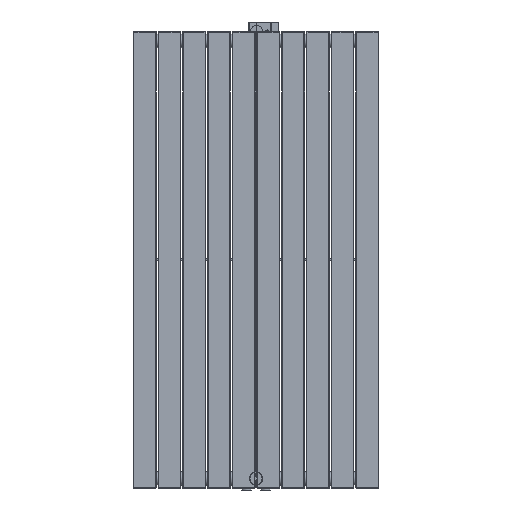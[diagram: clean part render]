
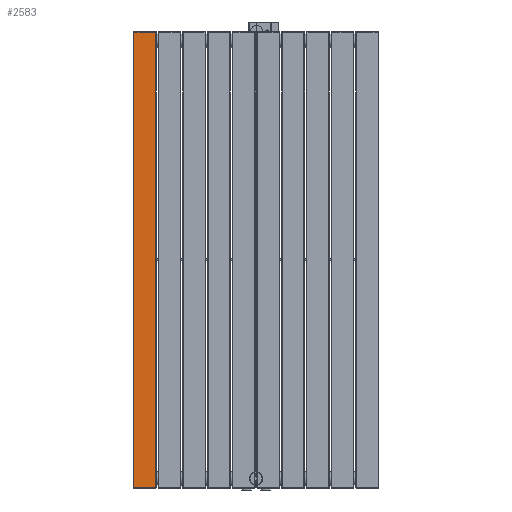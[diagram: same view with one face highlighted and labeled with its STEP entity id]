
A CAD part, front view. The second image highlights one B-rep face of the part: STEP entity #2583.
In plain terms, the highlighted planar face has unit normal (0, -1, 0) as drawn and (0, 1, 0) by its records, which use the part's own axes.
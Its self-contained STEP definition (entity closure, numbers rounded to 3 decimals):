
#2583 = ADVANCED_FACE( '', ( #5370 ), #5371, .F. );
#5370 = FACE_OUTER_BOUND( '', #8977, .T. );
#5371 = PLANE( '', #8978 );
#8977 = EDGE_LOOP( '', ( #16214, #16215, #16216, #16217 ) );
#8978 = AXIS2_PLACEMENT_3D( '', #16218, #16219, #16220 );
#16214 = ORIENTED_EDGE( '', *, *, #19776, .T. );
#16215 = ORIENTED_EDGE( '', *, *, #20799, .T. );
#16216 = ORIENTED_EDGE( '', *, *, #18758, .T. );
#16217 = ORIENTED_EDGE( '', *, *, #19513, .T. );
#16218 = CARTESIAN_POINT( '', ( 60., 10., 1200. ) );
#16219 = DIRECTION( '', ( 0., -1., 0. ) );
#16220 = DIRECTION( '', ( 0., 0., -1. ) );
#18758 = EDGE_CURVE( '', #21806, #21807, #21808, .T. );
#19513 = EDGE_CURVE( '', #21807, #23048, #23051, .T. );
#19776 = EDGE_CURVE( '', #23048, #23438, #23440, .F. );
#20799 = EDGE_CURVE( '', #23438, #21806, #24781, .F. );
#21806 = VERTEX_POINT( '', #26737 );
#21807 = VERTEX_POINT( '', #26738 );
#21808 = LINE( '', #26739, #26740 );
#23048 = VERTEX_POINT( '', #30445 );
#23051 = LINE( '', #30448, #30449 );
#23438 = VERTEX_POINT( '', #31169 );
#23440 = LINE( '', #31171, #31172 );
#24781 = LINE( '', #36188, #36189 );
#26737 = CARTESIAN_POINT( '', ( 59., 10., 1199. ) );
#26738 = CARTESIAN_POINT( '', ( 59., 10., 1. ) );
#26739 = CARTESIAN_POINT( '', ( 59., 10., 1200. ) );
#26740 = VECTOR( '', #37587, 1000. );
#30445 = CARTESIAN_POINT( '', ( 1., 10., 1. ) );
#30448 = CARTESIAN_POINT( '', ( 60., 10., 1. ) );
#30449 = VECTOR( '', #38504, 1000. );
#31169 = CARTESIAN_POINT( '', ( 1., 10., 1199. ) );
#31171 = CARTESIAN_POINT( '', ( 1., 10., 1200. ) );
#31172 = VECTOR( '', #38841, 1000. );
#36188 = CARTESIAN_POINT( '', ( 59., 10., 1199. ) );
#36189 = VECTOR( '', #39851, 1000. );
#37587 = DIRECTION( '', ( 0., 0., -1. ) );
#38504 = DIRECTION( '', ( -1., 0., 0. ) );
#38841 = DIRECTION( '', ( 0., 0., -1. ) );
#39851 = DIRECTION( '', ( -1., 0., 0. ) );
